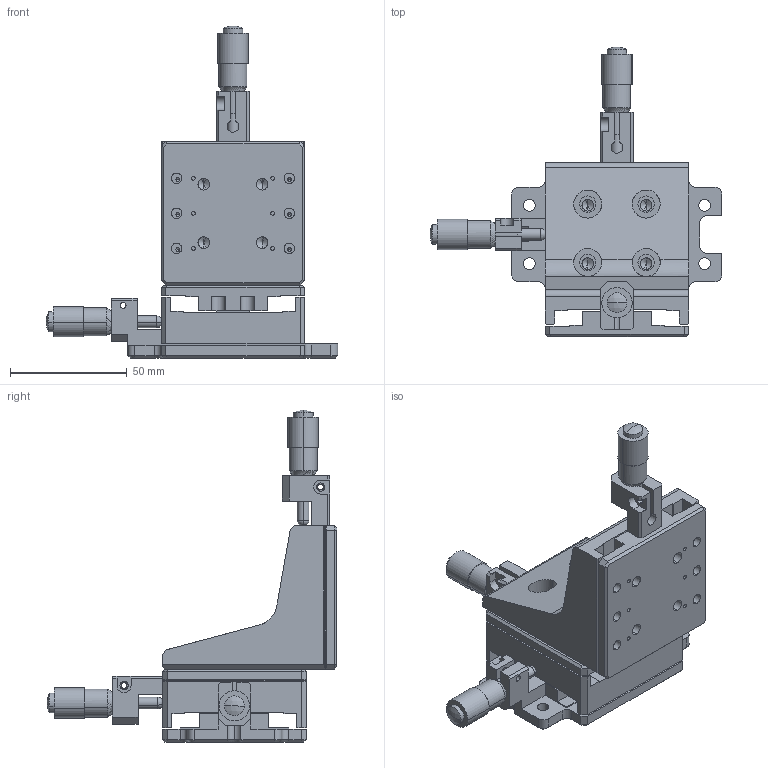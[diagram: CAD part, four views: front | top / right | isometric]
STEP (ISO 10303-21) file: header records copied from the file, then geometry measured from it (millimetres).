
FILE_DESCRIPTION (( 'STEP AP203' ), '1' );
FILE_NAME ('ST300-13H.STEP', '2021-11-16T09:47:06', ( 'PC' ), ( 'Microsoft' ), 'SwSTEP 2.0', 'SolidWorks 2016', '' );
FILE_SCHEMA (( 'CONFIG_CONTROL_DESIGN' ));
Length unit declared in the file: millimetre
Products named in the file (6): ST300嘐隅啣; ST300眻褒啣; ST300笢潔啣; ST300魂雄啣; 峚煦芛a; ST300-13H
Assembly tree (8 placements, depth 2):
  ST300-13H
    ST300嘐隅啣
    ST300眻褒啣
    ST300笢潔啣
    ST300魂雄啣  x2
    峚煦芛a  x3
Bounding box: 125 x 124.2 x 142.2 mm (x, y, z)
Volume: 221350.4 mm3; surface area: 82702.7 mm2
Topology: 8 solids, 8 shells, 641 faces, 1746 edges, 1074 vertices
Faces by surface type: cylinder 281, plane 251, cone 91, torus 6, sphere 6, bspline 6
Entity records: 16062 total; most frequent: CARTESIAN_POINT 2922, DIRECTION 2658, ORIENTED_EDGE 2518, EDGE_CURVE 1259, AXIS2_PLACEMENT_3D 934, VERTEX_POINT 810, LINE 790, VECTOR 790
